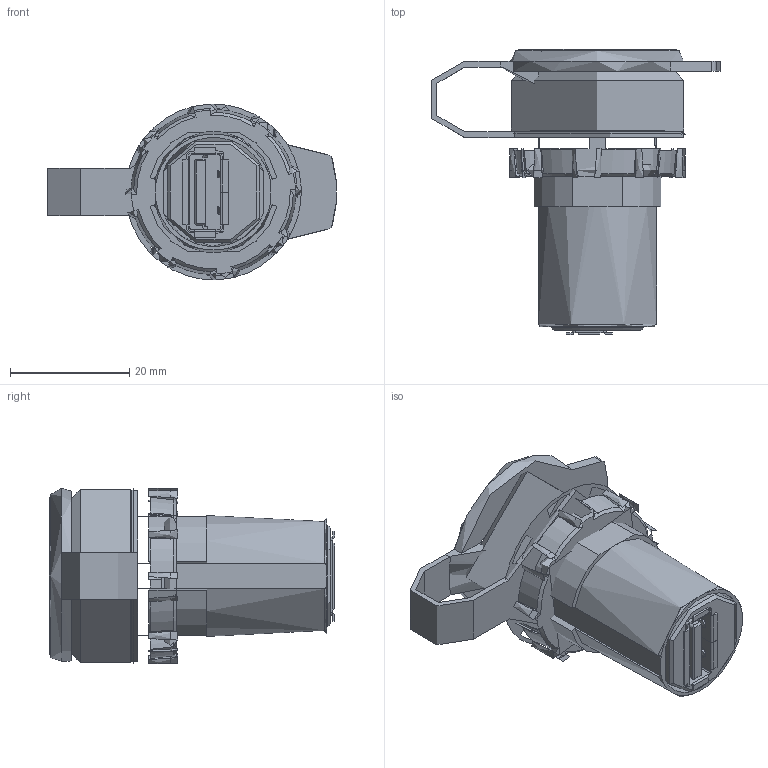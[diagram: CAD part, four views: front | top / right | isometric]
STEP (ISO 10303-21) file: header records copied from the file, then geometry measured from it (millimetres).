
FILE_DESCRIPTION((''),'2; 1');
FILE_NAME('','2026-03-26T14:12:25',(''),(''),'CST STEP Exporter V1.0','Unknown','');
FILE_SCHEMA(('CONFIG_CONTROL_DESIGN'));
Length unit declared in the file: metre
Assembly tree (13 placements, depth 2):
  (unnamed)
    (unnamed)
    (unnamed)
    (unnamed)
    (unnamed)
    (unnamed)
    (unnamed)
    (unnamed)
    (unnamed)
    (unnamed)
    (unnamed)
    (unnamed)
    (unnamed)
    (unnamed)
Bounding box: 48.43 x 47.87 x 29.5 mm (x, y, z)
Topology: 0 solids, 127 shells, 315 faces, 1247 edges, 1013 vertices
Faces by surface type: plane 159, cylinder 69, bspline 32, torus 21, cone 17, extrusion 15, sphere 2
Full cylindrical faces by diameter (mm): 2 x16, 29 x1, 29.5 x1
Entity records: 20736 total; most frequent: CARTESIAN_POINT 7187, ORIENTED_EDGE 1973, DIRECTION 1930, EDGE_CURVE 1265, VERTEX_POINT 951, VECTOR 768, LINE 753, AXIS2_PLACEMENT_3D 581
